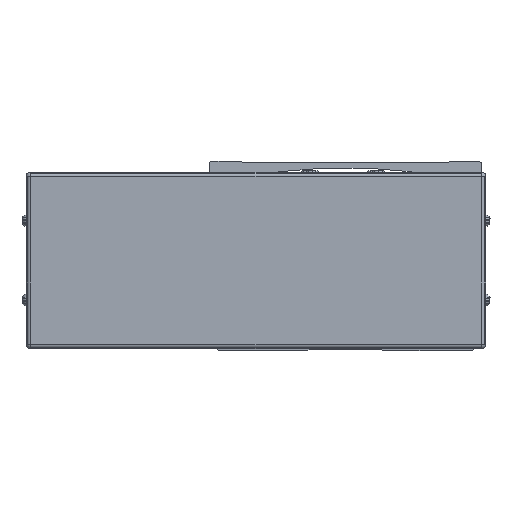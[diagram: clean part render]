
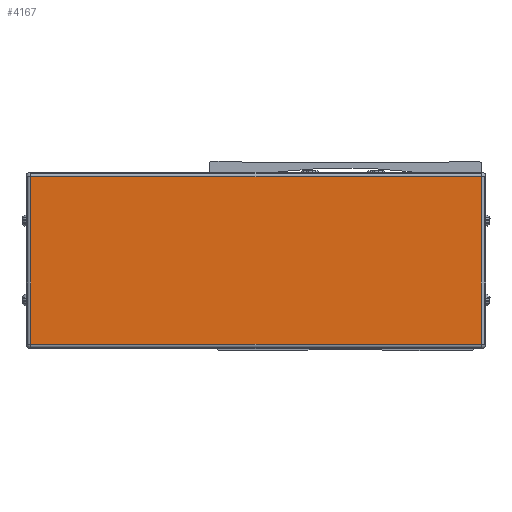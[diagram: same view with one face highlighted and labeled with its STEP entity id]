
A CAD part, front view. The second image highlights one B-rep face of the part: STEP entity #4167.
In plain terms, the highlighted planar face has unit normal (0, -1, 0).
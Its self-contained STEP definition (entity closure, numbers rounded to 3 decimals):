
#4167=ADVANCED_FACE('',(#10037),#10038,.F.);
#10037=FACE_OUTER_BOUND('',#18254,.T.);
#10038=PLANE('',#18255);
#18254=EDGE_LOOP('',(#31903,#31904,#31905,#31906));
#18255=AXIS2_PLACEMENT_3D('',#31907,#31908,#31909);
#31903=ORIENTED_EDGE('',*,*,#51544,.T.);
#31904=ORIENTED_EDGE('',*,*,#51545,.T.);
#31905=ORIENTED_EDGE('',*,*,#51266,.T.);
#31906=ORIENTED_EDGE('',*,*,#51092,.T.);
#31907=CARTESIAN_POINT('',(-340.5,-163.778,-8.));
#31908=DIRECTION('',(0.,1.0,0.));
#31909=DIRECTION('',(-1.0,0.,0.));
#51092=EDGE_CURVE('',#62762,#62760,#62763,.T.);
#51266=EDGE_CURVE('',#61789,#62762,#63043,.T.);
#51544=EDGE_CURVE('',#62760,#63456,#63457,.T.);
#51545=EDGE_CURVE('',#63456,#61789,#63458,.T.);
#61789=VERTEX_POINT('',#77194);
#62760=VERTEX_POINT('',#78523);
#62762=VERTEX_POINT('',#78525);
#62763=LINE('',#78526,#78527);
#63043=LINE('',#78889,#78890);
#63456=VERTEX_POINT('',#79494);
#63457=LINE('',#79495,#79496);
#63458=LINE('',#79497,#79498);
#77194=CARTESIAN_POINT('',(-238.3,-163.778,-46.));
#78523=CARTESIAN_POINT('',(-442.7,-163.778,30.));
#78525=CARTESIAN_POINT('',(-238.3,-163.778,30.));
#78526=CARTESIAN_POINT('',(-340.5,-163.778,30.));
#78527=VECTOR('',#92979,10.0);
#78889=CARTESIAN_POINT('',(-238.3,-163.778,-8.));
#78890=VECTOR('',#93261,10.0);
#79494=CARTESIAN_POINT('',(-442.7,-163.778,-46.));
#79495=CARTESIAN_POINT('',(-442.7,-163.778,-8.));
#79496=VECTOR('',#93606,10.0);
#79497=CARTESIAN_POINT('',(-340.5,-163.778,-46.));
#79498=VECTOR('',#93607,10.0);
#92979=DIRECTION('',(-1.0,0.,0.));
#93261=DIRECTION('',(0.0,0.,1.0));
#93606=DIRECTION('',(0.0,0.,-1.0));
#93607=DIRECTION('',(1.0,0.,0.));
